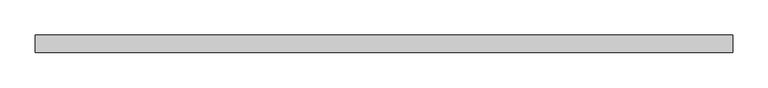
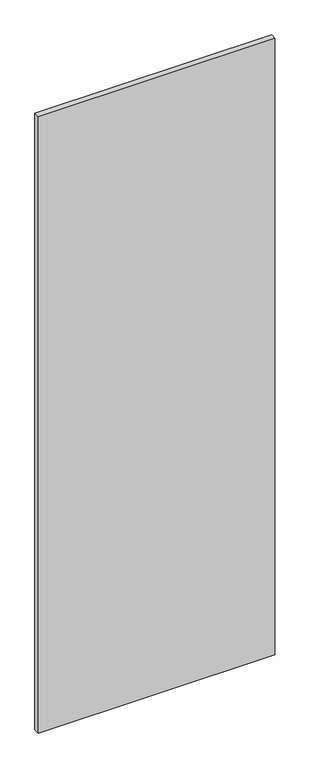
"""IFC4 building model written with IfcOpenShell, lengths in millimetres: plate geometry, 系统嵌板 : 玻璃."""

from ifc_helpers import new_model, si_unit, origin, origin_with_axes, place, context, project, spatial, polyline, outline, extrude, source, transform, mapped, element, save


def plate_3e347498(model_context):
    return source(origin(), model_context, "Body", "SweptSolid", [
        extrude(outline(polyline([(497.5, -12.5), (-497.5, -12.5), (-497.5, 12.5), (497.5, 12.5), (497.5, -12.5)])), origin_with_axes(), (0.0, 0.0, 1.0), 2740.0),
    ])


if __name__ == "__main__":
    model = new_model("IFC4")
    model_context = context("Model", 3, world=origin())
    ifc_project = project(units=[si_unit("LENGTHUNIT", "METRE", prefix="MILLI")], contexts=[model_context])
    site = spatial("IfcSite", under=ifc_project)
    building = spatial("IfcBuilding", under=site)
    placement = place(None, origin())
    plate_shape = plate_3e347498(model_context)
    element("IfcPlate", 1, ObjectType="系统嵌板 : 玻璃", at=placement, inside=building, context=model_context, shape_type="MappedRepresentation", body=[
        mapped(plate_shape, transform((0.0, 0.0, 0.0), x_axis=(1.0, 0.0, 0.0), y_axis=(0.0, 1.0, 0.0), z_axis=(0.0, 0.0, 1.0))),
    ])
    save(model, "model.ifc")
